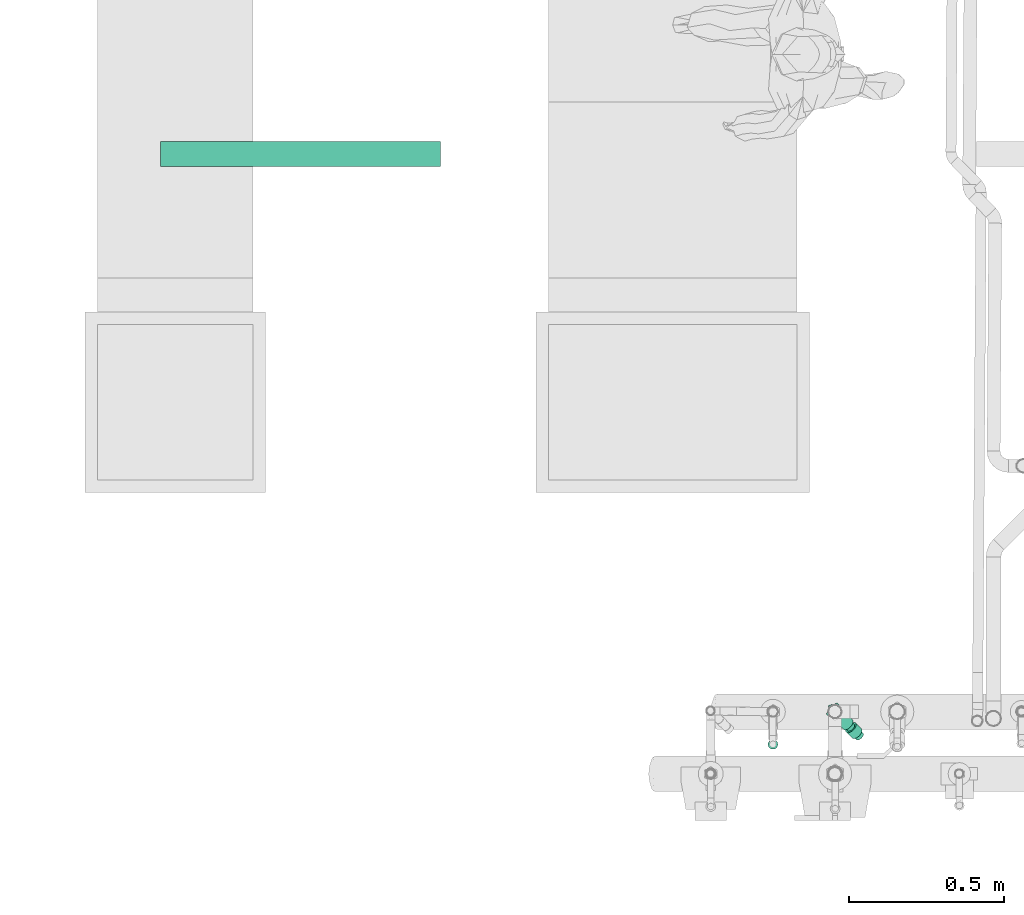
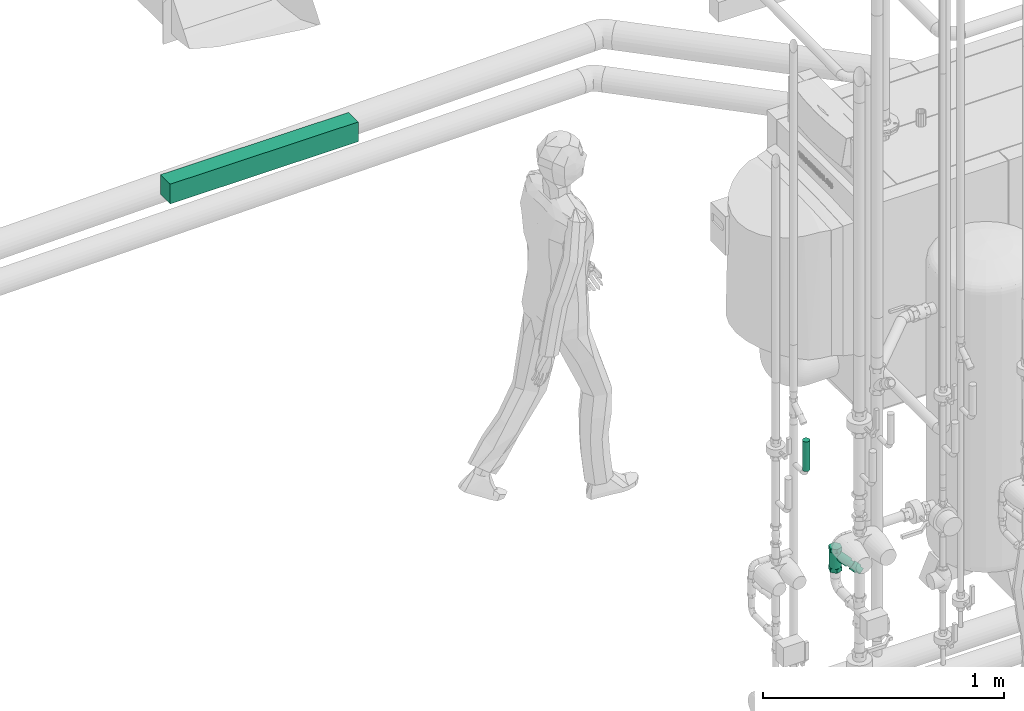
# One storey, part 88 of 374: 1 distribution control element, 1 distribution element, 1 flow treatment device.
"""IFC2X3 building model written with IfcOpenShell, lengths in metres."""

from ifc_helpers import new_model, si_unit, direction, frame, frame_2d, origin, place, context, subcontext, project, spatial, rectangle, extrude, open_shell, surface_model, source, transform, mapped, element, save


model = new_model("IFC2X3")

# Units and contexts
model_context = context("Model", 3, precision=1e-05, world=origin(), true_north=direction((-0.4480736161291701, 0.8939966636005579)))
body_context = subcontext(model_context, "Body", "Model", "MODEL_VIEW")
ifc_project = project(units=[si_unit("LENGTHUNIT", "METRE"), si_unit("AREAUNIT", "SQUARE_METRE"), si_unit("VOLUMEUNIT", "CUBIC_METRE"), si_unit("PLANEANGLEUNIT", "RADIAN"), si_unit("THERMODYNAMICTEMPERATUREUNIT", "KELVIN"), si_unit("MASSUNIT", "GRAM", prefix="KILO"), si_unit("TIMEUNIT", "SECOND")], contexts=[model_context])

# Site, building, storey
site_placement = place(None, origin())
site = spatial("IfcSite", under=ifc_project, at=site_placement, Name="Site 1", CompositionType="ELEMENT")
building_placement = place(site_placement, origin())
building = spatial("IfcBuilding", under=site, at=building_placement, Name="Undefined", CompositionType="ELEMENT")
storey_placement = place(building_placement, origin())
storey = spatial("IfcBuildingStorey", under=building, at=storey_placement, Name="Rez de chauss\x8ee", CompositionType="ELEMENT", Elevation=0.0)

# Distribution control element
shared_shape_1 = source(origin(), body_context, "Body", "SurfaceModel", [
    surface_model("IfcFaceBasedSurfaceModel", [(0.0, 0.004111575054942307, -1.33226763e-15), (0.0, 0.0, 0.0), (0.1499999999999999, 7.105427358e-15, -4.4408921e-16), (0.1499999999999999, 0.004111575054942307, -1.33226763e-15), (0.0, -0.003971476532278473, -0.0010641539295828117), (0.1499999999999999, -0.003971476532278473, -0.0010641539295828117), (0.0, -0.007532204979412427, -0.003119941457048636), (0.1499999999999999, -0.007532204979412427, -0.003119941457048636), (0.0, -0.01043952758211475, -0.006027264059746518), (0.1499999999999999, -0.01043952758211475, -0.006027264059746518), (0.0, -0.01249531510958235, -0.009587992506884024), (0.1499999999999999, -0.01249531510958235, -0.009587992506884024), (0.0, -0.013559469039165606, -0.013559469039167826), (0.1499999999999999, -0.013559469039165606, -0.013559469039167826), (0.0, -0.013559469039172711, -0.017671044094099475), (0.1499999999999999, -0.013559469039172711, -0.017671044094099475), (0.0, -0.01249531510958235, -0.021642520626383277), (0.1499999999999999, -0.01249531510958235, -0.021642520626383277), (0.0, -0.010439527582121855, -0.025203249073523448), (0.1499999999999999, -0.010439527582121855, -0.025203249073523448), (0.0, -0.007532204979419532, -0.028110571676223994), (0.1499999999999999, -0.007532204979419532, -0.028110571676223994), (0.0, -0.003971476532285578, -0.030166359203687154), (0.1499999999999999, -0.003971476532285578, -0.030166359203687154), (0.0, 7.105427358e-15, -0.031230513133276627), (0.1499999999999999, 7.105427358e-15, -0.031230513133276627), (0.0, 0.004111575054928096, -0.031230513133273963), (0.1499999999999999, 0.004111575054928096, -0.031230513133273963), (0.0, 0.00808305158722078, -0.03016635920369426), (0.1499999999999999, 0.00808305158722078, -0.03016635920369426), (0.0, 0.011643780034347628, -0.028110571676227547), (0.1499999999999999, 0.011643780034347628, -0.028110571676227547), (0.0, 0.014551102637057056, -0.02520324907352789), (0.1499999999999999, 0.014551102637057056, -0.02520324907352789), (0.0, 0.01660689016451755, -0.02164252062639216), (0.1499999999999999, 0.01660689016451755, -0.02164252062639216), (0.0, 0.017671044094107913, -0.01767104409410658), (0.1499999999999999, 0.017671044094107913, -0.01767104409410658), (0.0, 0.017671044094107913, -0.013559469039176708), (0.1499999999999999, 0.017671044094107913, -0.013559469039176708), (0.0, 0.016606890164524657, -0.00958799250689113), (0.1499999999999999, 0.016606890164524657, -0.00958799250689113), (0.0, 0.014551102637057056, -0.006027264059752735), (0.1499999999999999, 0.014551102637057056, -0.006027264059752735), (0.0, 0.01164378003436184, -0.003119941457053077), (0.1499999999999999, 0.01164378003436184, -0.003119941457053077), (0.0, 0.00808305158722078, -0.0010641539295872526), (0.1499999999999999, 0.00808305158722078, -0.0010641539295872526), (0.0, 0.002055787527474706, -0.015615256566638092), (0.1499999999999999, 0.002055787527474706, -0.015615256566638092)], [open_shell([[[0, 1, 2, 3]], [[1, 4, 5, 2]], [[4, 6, 7, 5]], [[6, 8, 9, 7]], [[8, 10, 11, 9]], [[10, 12, 13, 11]], [[12, 14, 15, 13]], [[14, 16, 17, 15]], [[16, 18, 19, 17]], [[18, 20, 21, 19]], [[20, 22, 23, 21]], [[22, 24, 25, 23]], [[24, 26, 27, 25]], [[26, 28, 29, 27]], [[28, 30, 31, 29]], [[30, 32, 33, 31]], [[32, 34, 35, 33]], [[34, 36, 37, 35]], [[36, 38, 39, 37]], [[38, 40, 41, 39]], [[40, 42, 43, 41]], [[42, 44, 45, 43]], [[44, 46, 47, 45]], [[46, 0, 3, 47]], [[48, 1, 0]], [[48, 4, 1]], [[48, 6, 4]], [[48, 8, 6]], [[48, 10, 8]], [[48, 12, 10]], [[48, 14, 12]], [[48, 16, 14]], [[48, 18, 16]], [[48, 20, 18]], [[48, 22, 20]], [[48, 24, 22]], [[48, 26, 24]], [[48, 28, 26]], [[48, 30, 28]], [[48, 32, 30]], [[48, 34, 32]], [[48, 36, 34]], [[48, 38, 36]], [[48, 40, 38]], [[48, 42, 40]], [[48, 44, 42]], [[48, 46, 44]], [[48, 0, 46]], [[49, 47, 3]], [[49, 45, 47]], [[49, 43, 45]], [[49, 41, 43]], [[49, 39, 41]], [[49, 37, 39]], [[49, 35, 37]], [[49, 33, 35]], [[49, 31, 33]], [[49, 29, 31]], [[49, 27, 29]], [[49, 25, 27]], [[49, 23, 25]], [[49, 21, 23]], [[49, 19, 21]], [[49, 17, 19]], [[49, 15, 17]], [[49, 13, 15]], [[49, 11, 13]], [[49, 9, 11]], [[49, 7, 9]], [[49, 5, 7]], [[49, 2, 5]], [[49, 3, 2]]])]),
])
distribution_control_element_placement = place(storey_placement, origin())
element("IfcDistributionControlElement", 1, at=distribution_control_element_placement, inside=storey, Name="Thermomètre droit", ObjectType="Thermomètre droit", context=body_context, shape_type="MappedRepresentation", body=[
    mapped(shared_shape_1, transform((52.253485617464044, 10.828400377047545, 1.4932197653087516), x_axis=(0.0, 0.0, 1.0), y_axis=(0.9914448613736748, 0.13052619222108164, 0.0), z_axis=(-0.13052619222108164, 0.9914448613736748, 0.0))),
])

# Flow treatment device
shared_shape_2 = source(origin(), body_context, "Body", "SurfaceModel", [
    surface_model("IfcFaceBasedSurfaceModel", [(0.0, 0.005534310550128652, 0.0), (0.0, 0.0, 0.0), (0.03197328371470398, -7.105427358e-15, 8.8817842e-16), (0.030656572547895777, 0.0055343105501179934, 0.0), (0.0, -0.00534573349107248, -0.0014323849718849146), (0.03583368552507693, -0.005345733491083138, -0.0014323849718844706), (0.0, -0.010138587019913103, -0.004199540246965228), (0.04197469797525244, -0.010138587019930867, -0.004199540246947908), (0.0, -0.01405193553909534, -0.008112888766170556), (0.049977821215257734, -0.01405193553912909, -0.008112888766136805), (0.0, -0.016819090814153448, -0.012905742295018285), (0.059297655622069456, -0.016819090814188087, -0.012905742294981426), (0.0, -0.018251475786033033, -0.018251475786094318), (0.06929906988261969, -0.018251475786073, -0.01825147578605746), (0.0, -0.0182514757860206, -0.02378578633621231), (0.06628881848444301, -0.018251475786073, -0.023785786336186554), (0.0, -0.01681909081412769, -0.029131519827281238), (0.06348371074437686, -0.016819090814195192, -0.029131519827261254), (0.0, -0.014051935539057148, -0.03392437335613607), (0.061074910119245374, -0.014051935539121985, -0.03392437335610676), (0.0, -0.010138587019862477, -0.037837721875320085), (0.05922657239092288, -0.010138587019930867, -0.037837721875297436), (0.0, -0.005345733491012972, -0.040604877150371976), (0.058064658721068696, -0.005345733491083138, -0.04060487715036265), (0.0, 6.4837024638e-14, -0.042037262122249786), (0.05766835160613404, -1.4210854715e-14, -0.04203726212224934), (0.0, 0.005534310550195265, -0.04203726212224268), (0.058064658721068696, 0.005534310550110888, -0.04203726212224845), (0.0, 0.010880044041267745, -0.04060487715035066), (0.05922657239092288, 0.01088004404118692, -0.04060487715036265), (0.0, 0.01567289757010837, -0.03783772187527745), (0.061074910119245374, 0.01567289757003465, -0.03783772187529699), (0.0, 0.019586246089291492, -0.033924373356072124), (0.06348371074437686, 0.019586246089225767, -0.03392437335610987), (0.0, 0.0223534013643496, -0.029131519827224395), (0.06628881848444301, 0.02235340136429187, -0.02913151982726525), (0.0, 0.02378578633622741, -0.023785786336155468), (0.06929906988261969, 0.023785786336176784, -0.02378578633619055), (0.0, 0.023785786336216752, -0.01825147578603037), (0.059297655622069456, 0.023785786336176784, -0.018251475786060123), (0.0, 0.022353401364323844, -0.012905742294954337), (0.049977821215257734, 0.02235340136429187, -0.012905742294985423), (0.0, 0.019586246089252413, -0.008112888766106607), (0.04197469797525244, 0.019586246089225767, -0.008112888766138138), (0.0, 0.015672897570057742, -0.004199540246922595), (0.03583368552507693, 0.01567289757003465, -0.0041995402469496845), (0.0, 0.010880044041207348, -0.0014323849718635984), (0.03197328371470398, 0.01088004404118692, -0.0014323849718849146), (0.10083405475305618, -0.02497362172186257, -0.04019831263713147), (0.07648744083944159, -0.026998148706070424, -0.0555761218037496), (0.06622501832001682, -0.024895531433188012, -0.039605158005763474), (0.0905716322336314, -0.02287100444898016, -0.024227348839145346), (0.11300736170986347, 0.0008247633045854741, -0.03577256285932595), (0.1027449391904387, 0.0029273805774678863, -0.019801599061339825), (0.10083405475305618, 0.024598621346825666, -0.04672462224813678), (0.0905716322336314, 0.02670123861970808, -0.030753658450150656), (0.07648744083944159, 0.022574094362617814, -0.06210243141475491), (0.06622501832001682, 0.024676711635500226, -0.046131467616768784), (0.0643141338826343, -0.0032242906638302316, -0.06652818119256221), (0.05405171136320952, -0.0011216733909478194, -0.05055721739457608), (0.07839832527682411, 0.0256889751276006, -0.038442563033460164), (0.07294118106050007, 0.024390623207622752, -0.041778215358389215), (0.028990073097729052, 0.03339554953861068, 0.026620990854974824), (0.03444721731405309, 0.03469390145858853, 0.029956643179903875), (0.06785593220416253, 0.021491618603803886, -0.044664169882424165), (0.02390482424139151, 0.030496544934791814, 0.023735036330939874), (0.06348913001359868, 0.017189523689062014, -0.046903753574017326), (0.019538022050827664, 0.026194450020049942, 0.021495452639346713), (0.06013836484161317, 0.011777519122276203, -0.04834434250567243), (0.01618725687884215, 0.02078244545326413, 0.020054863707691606), (0.05803198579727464, 0.0056244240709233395, -0.04888776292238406), (0.014080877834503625, 0.014629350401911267, 0.01951144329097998), (0.057313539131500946, -0.0008504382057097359, -0.04849698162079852), (0.013362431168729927, 0.008154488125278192, 0.01990222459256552), (0.05803198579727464, -0.0072058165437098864, -0.04719862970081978), (0.014080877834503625, 0.0017991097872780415, 0.021200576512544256), (0.06013836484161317, -0.013008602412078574, -0.045081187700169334), (0.01618725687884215, -0.004003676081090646, 0.023318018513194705), (0.06348913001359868, -0.017863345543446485, -0.042288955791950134), (0.019538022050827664, -0.008858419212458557, 0.026110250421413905), (0.06785593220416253, -0.02143920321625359, -0.03901221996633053), (0.02390482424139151, -0.01243427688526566, 0.02938698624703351), (0.07294118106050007, -0.02349248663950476, -0.03547428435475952), (0.028990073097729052, -0.014487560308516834, 0.03292492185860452), (0.07839832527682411, -0.023883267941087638, -0.031916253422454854), (0.03444721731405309, -0.01487834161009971, 0.036482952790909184), (0.08385546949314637, -0.02258491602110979, -0.028580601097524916), (0.039904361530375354, -0.013579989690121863, 0.03981860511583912), (0.08894071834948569, -0.01968591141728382, -0.025694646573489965), (0.044989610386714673, -0.010680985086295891, 0.04270455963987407), (0.09330752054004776, -0.015383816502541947, -0.023455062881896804), (0.04935641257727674, -0.006378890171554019, 0.044944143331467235), (0.09665828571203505, -0.009971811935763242, -0.022014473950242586), (0.052707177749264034, -0.0009668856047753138, 0.04638473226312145), (0.0987646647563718, -0.0038187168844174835, -0.02147105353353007), (0.05481355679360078, 0.0051862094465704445, 0.04692815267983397), (0.0994831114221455, 0.0026561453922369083, -0.02186183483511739), (0.05553200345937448, 0.011661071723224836, 0.04653737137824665), (0.0987646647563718, 0.009011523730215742, -0.023160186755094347), (0.05481355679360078, 0.01801645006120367, 0.04523901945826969), (0.09665828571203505, 0.014814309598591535, -0.025277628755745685), (0.052707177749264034, 0.023819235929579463, 0.043121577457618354), (0.09330752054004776, 0.019669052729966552, -0.028069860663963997), (0.04935641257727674, 0.02867397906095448, 0.04032934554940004), (0.08894071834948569, 0.023244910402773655, -0.0313465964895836), (0.044989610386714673, 0.03224983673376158, 0.03705260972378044), (0.08385546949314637, 0.025298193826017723, -0.03488453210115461), (0.039904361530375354, 0.03430312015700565, 0.03351467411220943), (0.046620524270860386, -0.013866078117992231, 0.04417185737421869), (0.022273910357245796, -0.015890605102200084, 0.028794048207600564), (0.012011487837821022, -0.013787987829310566, 0.04476501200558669), (0.03635810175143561, -0.011763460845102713, 0.06014282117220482), (0.05879383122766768, 0.011932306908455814, 0.048597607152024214), (0.04853140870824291, 0.014034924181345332, 0.06456857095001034), (0.046620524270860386, 0.03570616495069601, 0.03764554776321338), (0.03635810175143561, 0.037808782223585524, 0.05361651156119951), (0.022273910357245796, 0.033681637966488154, 0.022267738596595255), (0.012011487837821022, 0.03578425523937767, 0.03823870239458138), (0.010100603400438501, 0.007883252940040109, 0.017841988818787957), (-0.00016181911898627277, 0.009985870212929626, 0.033812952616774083), (-1.776356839e-15, 0.017638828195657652, -0.022976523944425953), (0.0, 0.016625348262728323, -0.02675888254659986), (-0.016000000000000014, 0.016625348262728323, -0.02675888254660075), (-0.01600000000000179, 0.017638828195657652, -0.022976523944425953), (-1.776356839e-15, 0.014667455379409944, -0.030150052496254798), (-0.01600000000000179, 0.014667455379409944, -0.030150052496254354), (-1.776356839e-15, 0.01189857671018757, -0.03291893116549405), (-0.01600000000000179, 0.01189857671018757, -0.03291893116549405), (0.0, 0.008507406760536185, -0.03487682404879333), (-0.01600000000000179, 0.00850740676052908, -0.034876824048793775), (0.0, 0.00472504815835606, -0.0358903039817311), (-0.016000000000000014, 0.00472504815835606, -0.0358903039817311), (-1.776356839e-15, 0.0008092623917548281, -0.0358903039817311), (-0.01600000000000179, 0.0008092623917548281, -0.0358903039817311), (0.0, -0.0029730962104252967, -0.034876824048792), (-0.016000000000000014, -0.0029730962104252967, -0.034876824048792), (0.0, -0.006364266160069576, -0.03291893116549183), (-0.01600000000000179, -0.0063642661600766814, -0.03291893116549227), (-1.776356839e-15, -0.009133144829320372, -0.03015005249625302), (-0.01600000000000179, -0.009133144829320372, -0.03015005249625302), (-1.776356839e-15, -0.01109103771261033, -0.02675888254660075), (-0.01600000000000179, -0.01109103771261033, -0.026758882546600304), (0.0, -0.012104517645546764, -0.0229765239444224), (-0.016000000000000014, -0.012104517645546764, -0.02297652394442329), (-1.776356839e-15, -0.012104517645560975, -0.019060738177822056), (-0.01600000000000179, -0.012104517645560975, -0.019060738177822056), (-1.776356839e-15, -0.01109103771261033, -0.01527837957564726), (-0.01600000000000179, -0.01109103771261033, -0.01527837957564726), (0.0, -0.009133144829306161, -0.011887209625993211), (-0.016000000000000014, -0.009133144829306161, -0.0118872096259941), (0.0, -0.006364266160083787, -0.009118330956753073), (-0.01600000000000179, -0.0063642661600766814, -0.009118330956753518), (-1.776356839e-15, -0.0029730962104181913, -0.007160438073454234), (-0.01600000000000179, -0.0029730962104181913, -0.007160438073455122), (-1.776356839e-15, 0.0008092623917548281, -0.0061469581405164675), (-0.01600000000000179, 0.0008092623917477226, -0.006146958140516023), (0.0, 0.00472504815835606, -0.006146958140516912), (-0.01600000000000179, 0.004725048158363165, -0.006146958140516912), (-1.776356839e-15, 0.008507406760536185, -0.007160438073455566), (-0.01600000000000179, 0.00850740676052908, -0.007160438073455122), (-1.776356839e-15, 0.01189857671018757, -0.009118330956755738), (-0.01600000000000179, 0.01189857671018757, -0.009118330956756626), (0.0, 0.014667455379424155, -0.0118872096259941), (-0.01600000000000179, 0.01466745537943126, -0.011887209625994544), (0.0, 0.016625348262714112, -0.01527837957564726), (-0.016000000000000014, 0.016625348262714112, -0.015278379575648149), (-1.776356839e-15, 0.017638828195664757, -0.01906073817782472), (-0.01600000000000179, 0.017638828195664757, -0.01906073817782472), (-1.776356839e-15, 0.0027671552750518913, -0.02101863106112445), (-0.01600000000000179, 0.0027671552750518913, -0.02101863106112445), (-0.01600000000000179, 0.023785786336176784, -0.02378578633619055), (-0.01600000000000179, 0.02235340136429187, -0.029131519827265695), (-0.04742756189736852, 0.02235340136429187, -0.029131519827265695), (-0.04742756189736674, 0.02378578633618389, -0.023785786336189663), (-0.01600000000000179, 0.019586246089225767, -0.03392437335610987), (-0.04742756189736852, 0.019586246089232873, -0.03392437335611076), (-0.01600000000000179, 0.015672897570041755, -0.037837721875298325), (-0.04742756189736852, 0.01567289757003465, -0.037837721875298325), (-0.01600000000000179, 0.01088004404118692, -0.04060487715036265), (-0.04742756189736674, 0.01088004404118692, -0.04060487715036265), (-0.01600000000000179, 0.0055343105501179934, -0.04203726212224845), (-0.04742756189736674, 0.005534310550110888, -0.042037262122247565), (-0.01600000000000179, -7.105427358e-15, -0.04203726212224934), (-0.04742756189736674, -7.105427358e-15, -0.04203726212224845), (-0.01600000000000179, -0.005345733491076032, -0.04060487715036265), (-0.04742756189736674, -0.005345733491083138, -0.04060487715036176), (-0.01600000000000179, -0.010138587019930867, -0.037837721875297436), (-0.04742756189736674, -0.010138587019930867, -0.037837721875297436), (-0.01600000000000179, -0.01405193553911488, -0.033924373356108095), (-0.04742756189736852, -0.014051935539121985, -0.033924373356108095), (-0.01600000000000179, -0.016819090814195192, -0.029131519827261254), (-0.04742756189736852, -0.016819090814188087, -0.029131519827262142), (-0.01600000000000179, -0.018251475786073, -0.023785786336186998), (-0.04742756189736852, -0.018251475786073, -0.023785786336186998), (-0.01600000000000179, -0.018251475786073, -0.01825147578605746), (-0.04742756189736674, -0.018251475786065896, -0.01825147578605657), (-0.016000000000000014, -0.01681909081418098, -0.01290574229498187), (-0.04742756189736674, -0.016819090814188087, -0.012905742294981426), (-0.01600000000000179, -0.014051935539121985, -0.008112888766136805), (-0.04742756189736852, -0.01405193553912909, -0.00811288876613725), (-0.01600000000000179, -0.010138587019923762, -0.0041995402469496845), (-0.04742756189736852, -0.010138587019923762, -0.004199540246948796), (-0.01600000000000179, -0.005345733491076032, -0.0014323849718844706), (-0.04742756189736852, -0.005345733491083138, -0.0014323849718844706), (-0.015999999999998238, 0.0, 0.0), (-0.04742756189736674, -7.105427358e-15, 1.33226763e-15), (-0.01600000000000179, 0.005534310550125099, -4.4408921e-16), (-0.04742756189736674, 0.005534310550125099, 4.4408921e-16), (-0.01600000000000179, 0.01088004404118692, -0.0014323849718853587), (-0.04742756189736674, 0.01088004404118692, -0.0014323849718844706), (-0.01600000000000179, 0.015672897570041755, -0.0041995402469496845), (-0.04742756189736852, 0.01567289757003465, -0.0041995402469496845), (-0.01600000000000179, 0.019586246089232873, -0.008112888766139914), (-0.04742756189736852, 0.019586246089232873, -0.008112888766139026), (-0.01600000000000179, 0.022353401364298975, -0.012905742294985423), (-0.04742756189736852, 0.02235340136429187, -0.012905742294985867), (-0.016000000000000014, 0.02378578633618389, -0.018251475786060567), (-0.04742756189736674, 0.023785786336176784, -0.018251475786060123), (-0.04742756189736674, 0.017638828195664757, -0.022976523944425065), (-0.04742756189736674, 0.016625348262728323, -0.02675888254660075), (-0.06342756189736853, 0.016625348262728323, -0.026758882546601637), (-0.06342756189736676, 0.017638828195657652, -0.022976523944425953), (-0.04742756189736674, 0.014667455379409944, -0.030150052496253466), (-0.06342756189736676, 0.014667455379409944, -0.030150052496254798), (-0.04742756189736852, 0.01189857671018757, -0.03291893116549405), (-0.06342756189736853, 0.01189857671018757, -0.03291893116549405), (-0.04742756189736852, 0.008507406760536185, -0.03487682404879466), (-0.06342756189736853, 0.00850740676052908, -0.03487682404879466), (-0.04742756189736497, 0.00472504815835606, -0.0358903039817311), (-0.06342756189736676, 0.00472504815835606, -0.035890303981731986), (-0.04742756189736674, 0.0008092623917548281, -0.0358903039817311), (-0.06342756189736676, 0.0008092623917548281, -0.0358903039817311), (-0.04742756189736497, -0.0029730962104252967, -0.034876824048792), (-0.06342756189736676, -0.0029730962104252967, -0.03487682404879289), (-0.04742756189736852, -0.006364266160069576, -0.03291893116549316), (-0.06342756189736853, -0.0063642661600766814, -0.03291893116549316), (-0.04742756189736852, -0.009133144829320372, -0.03015005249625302), (-0.06342756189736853, -0.009133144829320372, -0.03015005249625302), (-0.04742756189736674, -0.01109103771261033, -0.026758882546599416), (-0.06342756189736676, -0.01109103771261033, -0.02675888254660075), (-0.04742756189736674, -0.012104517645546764, -0.02297652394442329), (-0.06342756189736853, -0.012104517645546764, -0.022976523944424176), (-0.04742756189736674, -0.01210451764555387, -0.019060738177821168), (-0.06342756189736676, -0.012104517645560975, -0.019060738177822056), (-0.04742756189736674, -0.01109103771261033, -0.015278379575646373), (-0.06342756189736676, -0.01109103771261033, -0.015278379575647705), (-0.04742756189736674, -0.009133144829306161, -0.011887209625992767), (-0.06342756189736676, -0.009133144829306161, -0.011887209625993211), (-0.04742756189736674, -0.006364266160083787, -0.009118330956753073), (-0.06342756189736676, -0.0063642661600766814, -0.009118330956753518), (-0.04742756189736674, -0.0029730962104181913, -0.007160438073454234), (-0.06342756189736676, -0.0029730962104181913, -0.007160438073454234), (-0.04742756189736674, 0.0008092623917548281, -0.006146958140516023), (-0.06342756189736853, 0.0008092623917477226, -0.0061469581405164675), (-0.04742756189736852, 0.00472504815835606, -0.006146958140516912), (-0.06342756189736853, 0.004725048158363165, -0.006146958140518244), (-0.04742756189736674, 0.008507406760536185, -0.007160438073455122), (-0.06342756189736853, 0.00850740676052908, -0.007160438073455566), (-0.04742756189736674, 0.01189857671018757, -0.009118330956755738), (-0.06342756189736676, 0.01189857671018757, -0.009118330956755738), (-0.04742756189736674, 0.014667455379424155, -0.0118872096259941), (-0.06342756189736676, 0.01466745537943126, -0.011887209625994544), (-0.04742756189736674, 0.016625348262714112, -0.015278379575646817), (-0.06342756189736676, 0.016625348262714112, -0.01527837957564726), (-0.04742756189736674, 0.017638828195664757, -0.019060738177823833), (-0.06342756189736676, 0.017638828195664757, -0.019060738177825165), (-0.04742756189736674, 0.0027671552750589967, -0.02101863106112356), (-0.06342756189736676, 0.0027671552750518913, -0.02101863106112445)], [open_shell([[[0, 1, 2, 3]], [[1, 4, 5, 2]], [[4, 6, 7, 5]], [[6, 8, 9, 7]], [[8, 10, 11, 9]], [[10, 12, 13, 11]], [[12, 14, 15, 13]], [[14, 16, 17, 15]], [[16, 18, 19, 17]], [[18, 20, 21, 19]], [[20, 22, 23, 21]], [[22, 24, 25, 23]], [[24, 26, 27, 25]], [[26, 28, 29, 27]], [[28, 30, 31, 29]], [[30, 32, 33, 31]], [[32, 34, 35, 33]], [[34, 36, 37, 35]], [[36, 38, 39, 37]], [[38, 40, 41, 39]], [[40, 42, 43, 41]], [[42, 44, 45, 43]], [[44, 46, 47, 45]], [[46, 0, 3, 47]], [[48, 49, 50, 51]], [[52, 48, 51, 53]], [[54, 52, 53, 55]], [[56, 54, 55, 57]], [[58, 56, 57, 59]], [[49, 58, 59, 50]], [[49, 48, 52]], [[49, 52, 54]], [[49, 54, 56]], [[49, 56, 58]], [[50, 53, 51]], [[50, 55, 53]], [[50, 57, 55]], [[50, 59, 57]], [[60, 61, 62, 63]], [[61, 64, 65, 62]], [[64, 66, 67, 65]], [[66, 68, 69, 67]], [[68, 70, 71, 69]], [[70, 72, 73, 71]], [[72, 74, 75, 73]], [[74, 76, 77, 75]], [[76, 78, 79, 77]], [[78, 80, 81, 79]], [[80, 82, 83, 81]], [[82, 84, 85, 83]], [[84, 86, 87, 85]], [[86, 88, 89, 87]], [[88, 90, 91, 89]], [[90, 92, 93, 91]], [[92, 94, 95, 93]], [[94, 96, 97, 95]], [[96, 98, 99, 97]], [[98, 100, 101, 99]], [[100, 102, 103, 101]], [[102, 104, 105, 103]], [[104, 106, 107, 105]], [[106, 60, 63, 107]], [[108, 109, 110, 111]], [[112, 108, 111, 113]], [[114, 112, 113, 115]], [[116, 114, 115, 117]], [[118, 116, 117, 119]], [[109, 118, 119, 110]], [[109, 108, 112]], [[109, 112, 114]], [[109, 114, 116]], [[109, 116, 118]], [[110, 113, 111]], [[110, 115, 113]], [[110, 117, 115]], [[110, 119, 117]], [[120, 121, 122, 123]], [[121, 124, 125, 122]], [[124, 126, 127, 125]], [[126, 128, 129, 127]], [[128, 130, 131, 129]], [[130, 132, 133, 131]], [[132, 134, 135, 133]], [[134, 136, 137, 135]], [[136, 138, 139, 137]], [[138, 140, 141, 139]], [[140, 142, 143, 141]], [[142, 144, 145, 143]], [[144, 146, 147, 145]], [[146, 148, 149, 147]], [[148, 150, 151, 149]], [[150, 152, 153, 151]], [[152, 154, 155, 153]], [[154, 156, 157, 155]], [[156, 158, 159, 157]], [[158, 160, 161, 159]], [[160, 162, 163, 161]], [[162, 164, 165, 163]], [[164, 166, 167, 165]], [[166, 120, 123, 167]], [[168, 121, 120]], [[168, 124, 121]], [[168, 126, 124]], [[168, 128, 126]], [[168, 130, 128]], [[168, 132, 130]], [[168, 134, 132]], [[168, 136, 134]], [[168, 138, 136]], [[168, 140, 138]], [[168, 142, 140]], [[168, 144, 142]], [[168, 146, 144]], [[168, 148, 146]], [[168, 150, 148]], [[168, 152, 150]], [[168, 154, 152]], [[168, 156, 154]], [[168, 158, 156]], [[168, 160, 158]], [[168, 162, 160]], [[168, 164, 162]], [[168, 166, 164]], [[168, 120, 166]], [[169, 167, 123]], [[169, 165, 167]], [[169, 163, 165]], [[169, 161, 163]], [[169, 159, 161]], [[169, 157, 159]], [[169, 155, 157]], [[169, 153, 155]], [[169, 151, 153]], [[169, 149, 151]], [[169, 147, 149]], [[169, 145, 147]], [[169, 143, 145]], [[169, 141, 143]], [[169, 139, 141]], [[169, 137, 139]], [[169, 135, 137]], [[169, 133, 135]], [[169, 131, 133]], [[169, 129, 131]], [[169, 127, 129]], [[169, 125, 127]], [[169, 122, 125]], [[169, 123, 122]], [[170, 171, 172, 173]], [[171, 174, 175, 172]], [[174, 176, 177, 175]], [[176, 178, 179, 177]], [[178, 180, 181, 179]], [[180, 182, 183, 181]], [[182, 184, 185, 183]], [[184, 186, 187, 185]], [[186, 188, 189, 187]], [[188, 190, 191, 189]], [[190, 192, 193, 191]], [[192, 194, 195, 193]], [[194, 196, 197, 195]], [[196, 198, 199, 197]], [[198, 200, 201, 199]], [[200, 202, 203, 201]], [[202, 204, 205, 203]], [[204, 206, 207, 205]], [[206, 208, 209, 207]], [[208, 210, 211, 209]], [[210, 212, 213, 211]], [[212, 214, 215, 213]], [[214, 216, 217, 215]], [[216, 170, 173, 217]], [[218, 219, 220, 221]], [[219, 222, 223, 220]], [[222, 224, 225, 223]], [[224, 226, 227, 225]], [[226, 228, 229, 227]], [[228, 230, 231, 229]], [[230, 232, 233, 231]], [[232, 234, 235, 233]], [[234, 236, 237, 235]], [[236, 238, 239, 237]], [[238, 240, 241, 239]], [[240, 242, 243, 241]], [[242, 244, 245, 243]], [[244, 246, 247, 245]], [[246, 248, 249, 247]], [[248, 250, 251, 249]], [[250, 252, 253, 251]], [[252, 254, 255, 253]], [[254, 256, 257, 255]], [[256, 258, 259, 257]], [[258, 260, 261, 259]], [[260, 262, 263, 261]], [[262, 264, 265, 263]], [[264, 218, 221, 265]], [[266, 219, 218]], [[266, 222, 219]], [[266, 224, 222]], [[266, 226, 224]], [[266, 228, 226]], [[266, 230, 228]], [[266, 232, 230]], [[266, 234, 232]], [[266, 236, 234]], [[266, 238, 236]], [[266, 240, 238]], [[266, 242, 240]], [[266, 244, 242]], [[266, 246, 244]], [[266, 248, 246]], [[266, 250, 248]], [[266, 252, 250]], [[266, 254, 252]], [[266, 256, 254]], [[266, 258, 256]], [[266, 260, 258]], [[266, 262, 260]], [[266, 264, 262]], [[266, 218, 264]], [[267, 265, 221]], [[267, 263, 265]], [[267, 261, 263]], [[267, 259, 261]], [[267, 257, 259]], [[267, 255, 257]], [[267, 253, 255]], [[267, 251, 253]], [[267, 249, 251]], [[267, 247, 249]], [[267, 245, 247]], [[267, 243, 245]], [[267, 241, 243]], [[267, 239, 241]], [[267, 237, 239]], [[267, 235, 237]], [[267, 233, 235]], [[267, 231, 233]], [[267, 229, 231]], [[267, 227, 229]], [[267, 225, 227]], [[267, 223, 225]], [[267, 220, 223]], [[267, 221, 220]]])]),
])
flow_treatment_device_placement = place(storey_placement, origin())
element("IfcFlowTreatmentDevice", 2, at=flow_treatment_device_placement, inside=storey, Name="Filtre en Y", ObjectType="Filtre en Y", context=body_context, shape_type="MappedRepresentation", body=[
    mapped(shared_shape_2, transform((52.48722985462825, 10.880609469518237, 0.8821166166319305), x_axis=(-0.5963678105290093, 0.5963678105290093, 0.5372996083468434), y_axis=(0.6514668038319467, 0.7506479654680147, -0.11008467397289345), z_axis=(-0.46897381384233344, 0.2843819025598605, -0.836176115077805))),
])

# Distribution element
distribution_element_placement = place(storey_placement, origin())
element("IfcDistributionElement", 3, at=distribution_element_placement, inside=storey, Name="T5 1-flammig 21W", ObjectType="T5 1-flammig 21W", context=body_context, shape_type="SweptSolid", body=[
    extrude(rectangle(XDim=0.9, YDim=0.08, at=frame_2d((3.552713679e-15, 0.0), x_axis=(1.0, 0.0))), frame((50.737500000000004, 12.712499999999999, 2.399)), (0.0, 0.0, 1.0), 0.1),
])

save(model, "model.ifc")
